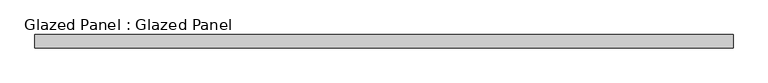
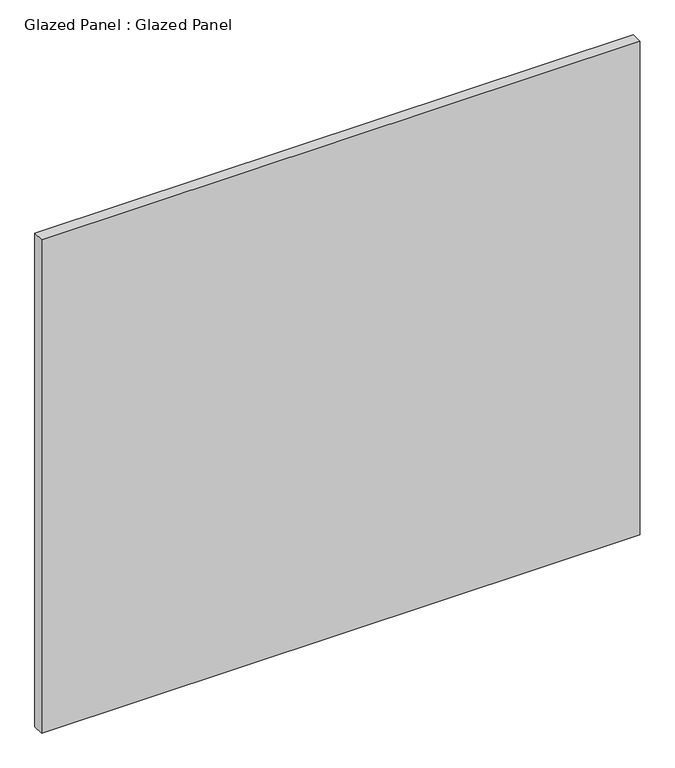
"""IFC4 building model written with IfcOpenShell, lengths in millimetres: plate geometry, Glazed Panel : Glazed Panel."""

from ifc_helpers import new_model, si_unit, origin, origin_with_axes, place, context, project, spatial, polyline, outline, extrude, source, transform, mapped, element, save


def glazed_panel_glazed_panel_0a1ca9b5(model_context):
    return source(origin(), model_context, "Body", "SweptSolid", [
        extrude(outline(polyline([(663.575, 38.1), (-663.575, 38.1), (-663.575, 63.5), (663.575, 63.5), (663.575, 38.1)])), origin_with_axes(), (0.0, 0.0, 1.0), 1155.7),
    ])


if __name__ == "__main__":
    model = new_model("IFC4")
    model_context = context("Model", 3, world=origin())
    ifc_project = project(units=[si_unit("LENGTHUNIT", "METRE", prefix="MILLI")], contexts=[model_context])
    site = spatial("IfcSite", under=ifc_project)
    building = spatial("IfcBuilding", under=site)
    placement = place(None, origin())
    glazed_panel_glazed_panel_shape = glazed_panel_glazed_panel_0a1ca9b5(model_context)
    element("IfcPlate", 1, ObjectType="Glazed Panel : Glazed Panel", at=placement, inside=building, context=model_context, shape_type="MappedRepresentation", body=[
        mapped(glazed_panel_glazed_panel_shape, transform((0.0, 0.0, 0.0), x_axis=(1.0, 0.0, 0.0), y_axis=(0.0, 1.0, 0.0), z_axis=(0.0, 0.0, 1.0))),
    ])
    save(model, "model.ifc")
